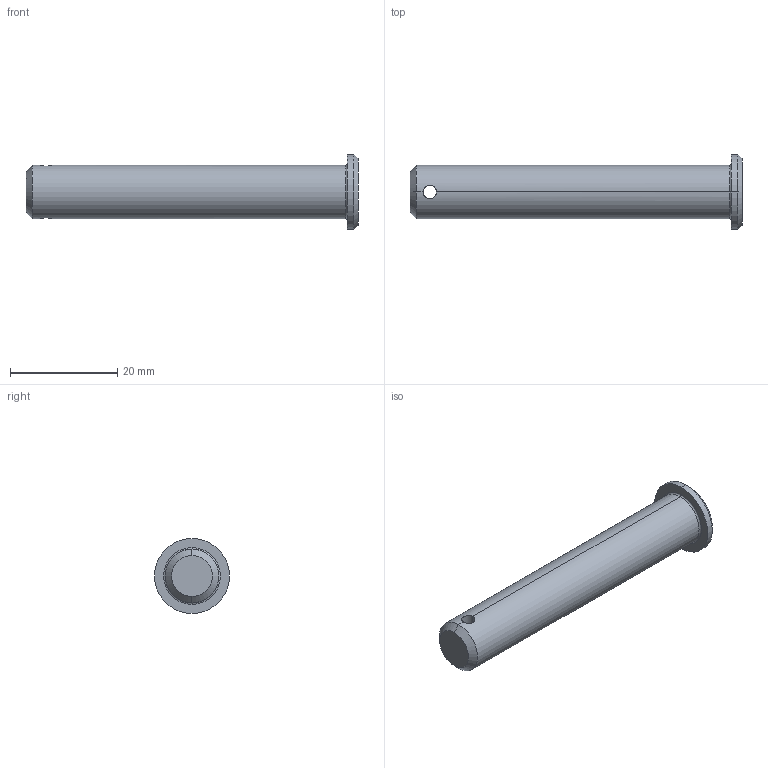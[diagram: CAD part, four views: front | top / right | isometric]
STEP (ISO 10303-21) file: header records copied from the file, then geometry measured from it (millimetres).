
FILE_DESCRIPTION (( 'STEP AP203' ), '1' );
FILE_NAME ('Wiberger-sms2360_10x60.step', '2012-10-09T08:57:13', ( 'Magnus' ), ( 'Wiberger' ), 'SwSTEP 2.0', 'SolidWorks 2011', '' );
FILE_SCHEMA (( 'CONFIG_CONTROL_DESIGN' ));
Length unit declared in the file: millimetre
Products named in the file (1): Wiberger-sms2360_10x60
Bounding box: 62 x 14 x 14 mm (x, y, z)
Volume: 4937.8 mm3; surface area: 2298.8 mm2
Topology: 1 solids, 1 shells, 15 faces, 32 edges, 18 vertices
Faces by surface type: cylinder 6, cone 4, plane 3, torus 2
Entity records: 555 total; most frequent: CARTESIAN_POINT 146, DIRECTION 76, ORIENTED_EDGE 64, AXIS2_PLACEMENT_3D 32, EDGE_CURVE 32, VERTEX_POINT 18, CIRCLE 16, EDGE_LOOP 16
